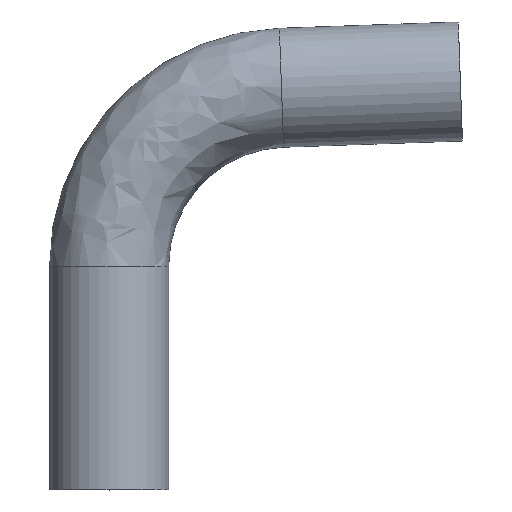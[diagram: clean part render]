
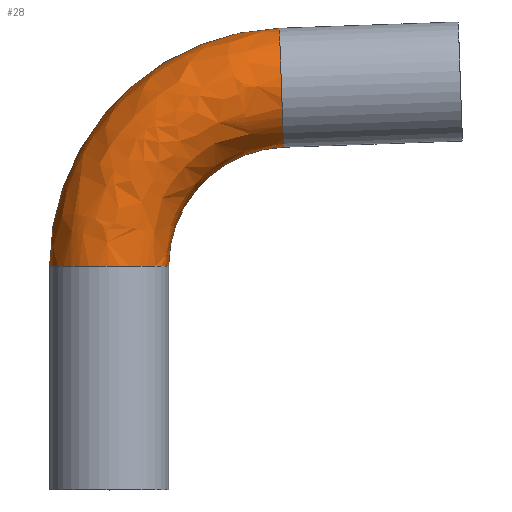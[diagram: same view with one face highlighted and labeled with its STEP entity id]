
A CAD part, top view. The second image highlights one B-rep face of the part: STEP entity #28.
In plain terms, the highlighted free-form (B-spline) face has degree [3, 3] with [4, 4] control points.
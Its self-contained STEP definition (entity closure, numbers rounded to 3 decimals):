
#8 = DIRECTION ( 'NONE',  ( -1., 0., 0. ) ) ;
#10 = CARTESIAN_POINT ( 'NONE',  ( 12.7, 62.181, 25.4 ) ) ;
#17 = CIRCLE ( 'NONE', #185, 12.7 ) ;
#18 = CARTESIAN_POINT ( 'NONE',  ( 12.7, 47.711, 25.4 ) ) ;
#28 = ADVANCED_FACE ( 'NONE', ( #426 ), #348, .T. ) ;
#40 = DIRECTION ( 'NONE',  ( -1., 0., 0. ) ) ;
#50 = VERTEX_POINT ( 'NONE', #318 ) ;
#65 = CIRCLE ( 'NONE', #305, 25.4 ) ;
#68 = CARTESIAN_POINT ( 'NONE',  ( 22.752, 72.59, 0. ) ) ;
#74 = VERTEX_POINT ( 'NONE', #97 ) ;
#78 = EDGE_CURVE ( 'NONE', #351, #74, #17, .T. ) ;
#80 = CARTESIAN_POINT ( 'NONE',  ( 7.404, 97.47, 25.4 ) ) ;
#81 = EDGE_LOOP ( 'NONE', ( #306, #345, #157, #304 ) ) ;
#90 = CARTESIAN_POINT ( 'NONE',  ( 36.77, 85.787, 0. ) ) ;
#97 = CARTESIAN_POINT ( 'NONE',  ( 12.7, 47.711, 0. ) ) ;
#100 = CARTESIAN_POINT ( 'NONE',  ( -12.7, 47.711, 0. ) ) ;
#106 = CARTESIAN_POINT ( 'NONE',  ( 36.327, 98.48, 25.4 ) ) ;
#122 = CARTESIAN_POINT ( 'NONE',  ( -12.7, 47.711, 25.4 ) ) ;
#129 = CARTESIAN_POINT ( 'NONE',  ( 22.752, 72.59, 25.4 ) ) ;
#130 = CARTESIAN_POINT ( 'NONE',  ( 38.1, 47.711, 0. ) ) ;
#143 = EDGE_CURVE ( 'NONE', #50, #307, #402, .T. ) ;
#145 = AXIS2_PLACEMENT_3D ( 'NONE', #90, #249, #391 ) ;
#157 = ORIENTED_EDGE ( 'NONE', *, *, #143, .T. ) ;
#185 = AXIS2_PLACEMENT_3D ( 'NONE', #292, #376, #379 ) ;
#200 = CARTESIAN_POINT ( 'NONE',  ( 7.404, 97.47, 0. ) ) ;
#208 = CARTESIAN_POINT ( 'NONE',  ( 37.214, 73.095, 25.4 ) ) ;
#215 = CARTESIAN_POINT ( 'NONE',  ( -12.7, 76.651, 0. ) ) ;
#218 = AXIS2_PLACEMENT_3D ( 'NONE', #130, #342, #40 ) ;
#237 = CARTESIAN_POINT ( 'NONE',  ( -12.7, 76.651, 25.4 ) ) ;
#243 = CARTESIAN_POINT ( 'NONE',  ( -12.7, 47.711, 0. ) ) ;
#249 = DIRECTION ( 'NONE',  ( -0.999, -0.035, 0. ) ) ;
#255 = CARTESIAN_POINT ( 'NONE',  ( 36.327, 98.48, 0. ) ) ;
#285 = EDGE_CURVE ( 'NONE', #74, #50, #65, .T. ) ;
#292 = CARTESIAN_POINT ( 'NONE',  ( 0., 47.711, 0. ) ) ;
#294 = CARTESIAN_POINT ( 'NONE',  ( 38.1, 47.711, 0. ) ) ;
#304 = ORIENTED_EDGE ( 'NONE', *, *, #462, .F. ) ;
#305 = AXIS2_PLACEMENT_3D ( 'NONE', #294, #441, #8 ) ;
#306 = ORIENTED_EDGE ( 'NONE', *, *, #78, .T. ) ;
#307 = VERTEX_POINT ( 'NONE', #255 ) ;
#318 = CARTESIAN_POINT ( 'NONE',  ( 37.214, 73.095, 0. ) ) ;
#342 = DIRECTION ( 'NONE',  ( 0., 0., -1. ) ) ;
#345 = ORIENTED_EDGE ( 'NONE', *, *, #285, .T. ) ;
#348 =( BOUNDED_SURFACE ( )  B_SPLINE_SURFACE ( 3, 3, ( 
 ( #100, #215, #200, #380 ),
 ( #122, #237, #80, #106 ),
 ( #18, #10, #129, #208 ),
 ( #387, #381, #68, #385 ) ),
 .UNSPECIFIED., .F., .F., .T. ) 
 B_SPLINE_SURFACE_WITH_KNOTS ( ( 4, 4 ),
 ( 4, 4 ),
 ( 0., 1. ),
 ( 0., 1. ),
 .UNSPECIFIED. ) 
 GEOMETRIC_REPRESENTATION_ITEM ( )  RATIONAL_B_SPLINE_SURFACE ( (
 ( 1., 0.813, 0.813, 1.),
 ( 0.333, 0.271, 0.271, 0.333),
 ( 0.333, 0.271, 0.271, 0.333),
 ( 1., 0.813, 0.813, 1.) ) ) 
 REPRESENTATION_ITEM ( '' )  SURFACE ( )  );
#351 = VERTEX_POINT ( 'NONE', #243 ) ;
#376 = DIRECTION ( 'NONE',  ( 0., 1., 0. ) ) ;
#379 = DIRECTION ( 'NONE',  ( -1., 0., 0. ) ) ;
#380 = CARTESIAN_POINT ( 'NONE',  ( 36.327, 98.48, 0. ) ) ;
#381 = CARTESIAN_POINT ( 'NONE',  ( 12.7, 62.181, 0. ) ) ;
#385 = CARTESIAN_POINT ( 'NONE',  ( 37.214, 73.095, 0. ) ) ;
#387 = CARTESIAN_POINT ( 'NONE',  ( 12.7, 47.711, 0. ) ) ;
#391 = DIRECTION ( 'NONE',  ( -0.035, 0.999, 0. ) ) ;
#402 = CIRCLE ( 'NONE', #145, 12.7 ) ;
#426 = FACE_OUTER_BOUND ( 'NONE', #81, .T. ) ;
#441 = DIRECTION ( 'NONE',  ( 0., 0., -1. ) ) ;
#446 = CIRCLE ( 'NONE', #218, 50.8 ) ;
#462 = EDGE_CURVE ( 'NONE', #351, #307, #446, .T. ) ;
